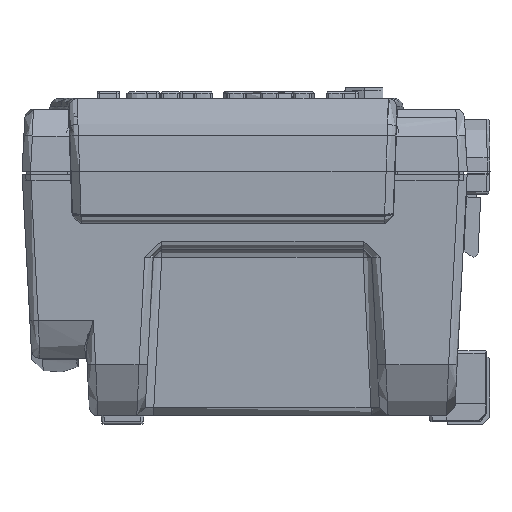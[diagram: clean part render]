
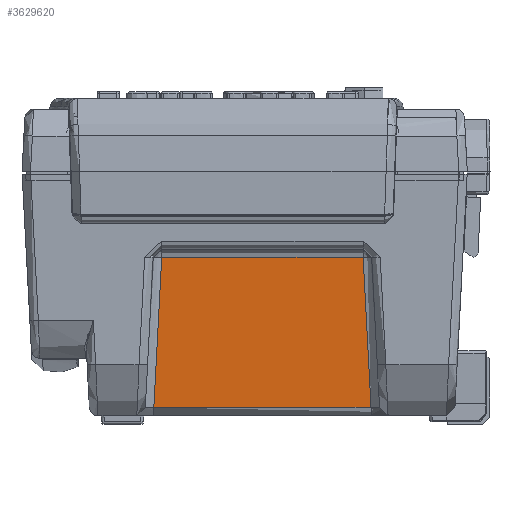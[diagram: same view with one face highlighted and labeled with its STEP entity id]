
A CAD part, left-side view. The second image highlights one B-rep face of the part: STEP entity #3629620.
In plain terms, the highlighted planar face has unit normal (-0.999, 0, -0.052).
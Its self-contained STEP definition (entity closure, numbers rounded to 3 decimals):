
#3628920=CARTESIAN_POINT('',(-104.77,-74.767,
-27.142));
#3628930=VERTEX_POINT('',#3628920);
#3629190=CARTESIAN_POINT('',(-104.77,-145.66,
-27.143));
#3629200=VERTEX_POINT('',#3629190);
#3629230=CARTESIAN_POINT('',(-104.77,-74.767,
-27.142));
#3629240=DIRECTION('',(0.,-1.,
0.));
#3629250=VECTOR('',#3629240,70.894);
#3629260=LINE('',#3629230,#3629250);
#3629270=EDGE_CURVE('',#3628930,#3629200,#3629260,.T.);
#3629320=CARTESIAN_POINT('',(-101.716,-156.203,
-85.425));
#3629330=DIRECTION('',(-0.999,-0.,-0.052));
#3629340=DIRECTION('',(0.052,0.,-0.999));
#3629350=AXIS2_PLACEMENT_3D('',#3629320,#3629330,#3629340);
#3629360=PLANE('',#3629350);
#3629370=CARTESIAN_POINT('',(-102.,-148.427,
-80.001));
#3629380=DIRECTION('',(0.,1.,
0.));
#3629390=VECTOR('',#3629380,76.426);
#3629400=LINE('',#3629370,#3629390);
#3629410=CARTESIAN_POINT('',(-102.,-148.427,
-80.001));
#3629420=VERTEX_POINT('',#3629410);
#3629430=CARTESIAN_POINT('',(-102.,-72.001,
-80.001));
#3629440=VERTEX_POINT('',#3629430);
#3629450=EDGE_CURVE('',#3629420,#3629440,#3629400,.T.);
#3629460=ORIENTED_EDGE('',*,*,#3629450,.F.);
#3629470=CARTESIAN_POINT('',(-104.77,-74.767,
-27.142));
#3629480=DIRECTION('',(0.052,0.052,
-0.997));
#3629490=VECTOR('',#3629480,53.003);
#3629500=LINE('',#3629470,#3629490);
#3629510=EDGE_CURVE('',#3628930,#3629440,#3629500,.T.);
#3629520=ORIENTED_EDGE('',*,*,#3629510,.T.);
#3629530=ORIENTED_EDGE('',*,*,#3629270,.F.);
#3629540=CARTESIAN_POINT('',(-102.,-148.427,
-80.001));
#3629550=DIRECTION('',(-0.052,0.052,
0.997));
#3629560=VECTOR('',#3629550,53.003);
#3629570=LINE('',#3629540,#3629560);
#3629580=EDGE_CURVE('',#3629420,#3629200,#3629570,.T.);
#3629590=ORIENTED_EDGE('',*,*,#3629580,.T.);
#3629600=EDGE_LOOP('',(#3629590,#3629530,#3629520,#3629460));
#3629610=FACE_OUTER_BOUND('',#3629600,.T.);
#3629620=ADVANCED_FACE('',(#3629610),#3629360,.T.);
